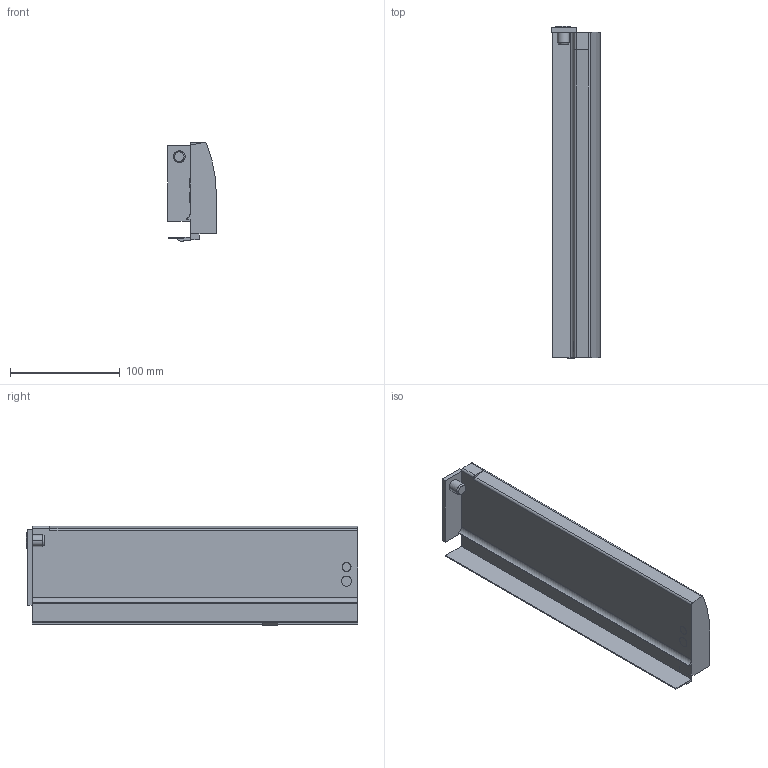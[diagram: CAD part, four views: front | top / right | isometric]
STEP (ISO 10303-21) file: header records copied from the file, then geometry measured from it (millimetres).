
FILE_DESCRIPTION (( 'STEP AP214' ), '1' );
FILE_NAME ('_IMOS_NOVA-Pro_Dekor-H90_DL_NL300_RE.step', '2010-07-06T09:14:01', ( 'grass' ), ( '' ), 'SwSTEP 2.0', 'SolidWorks 2009', '' );
FILE_SCHEMA (( 'AUTOMOTIVE_DESIGN' ));
Length unit declared in the file: millimetre
Products named in the file (1): _IMOS_NOVA-Pro_Dekor-H90_DL_NL300_RE
Bounding box: 44.3 x 302.7 x 90.49 mm (x, y, z)
Volume: 334263.4 mm3; surface area: 105658.4 mm2
Topology: 1 solids, 1 shells, 69 faces, 182 edges, 120 vertices
Faces by surface type: plane 47, cylinder 17, cone 4, bspline 1
Entity records: 2168 total; most frequent: CARTESIAN_POINT 393, ORIENTED_EDGE 364, DIRECTION 357, EDGE_CURVE 182, LINE 141, VECTOR 141, VERTEX_POINT 120, AXIS2_PLACEMENT_3D 108
